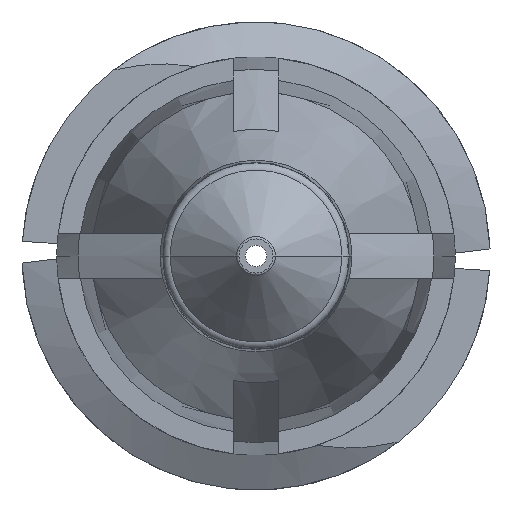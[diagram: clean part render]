
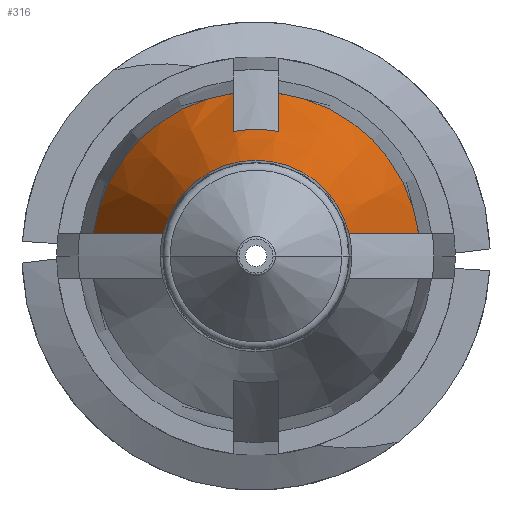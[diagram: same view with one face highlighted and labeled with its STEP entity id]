
A CAD part, front view. The second image highlights one B-rep face of the part: STEP entity #316.
In plain terms, the highlighted conical face has half-angle 20 degrees and reference radius 2.745 mm.
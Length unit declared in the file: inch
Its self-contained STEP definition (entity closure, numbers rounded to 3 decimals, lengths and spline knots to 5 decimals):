
#171 = VERTEX_POINT ( 'NONE', #3333 ) ;
#316 = ADVANCED_FACE ( 'NONE', ( #1262 ), #1378, .T. ) ;
#445 = CARTESIAN_POINT ( 'NONE',  ( 0.015, -0.406, 0.10703 ) ) ;
#454 = CARTESIAN_POINT ( 'NONE',  ( 0.06119, -0.52985, 0.015 ) ) ;
#490 = EDGE_CURVE ( 'NONE', #3282, #3223, #1990, .T. ) ;
#529 = CARTESIAN_POINT ( 'NONE',  ( 0.07664, -0.48863, 0.015 ) ) ;
#596 = ORIENTED_EDGE ( 'NONE', *, *, #1740, .F. ) ;
#630 = ORIENTED_EDGE ( 'NONE', *, *, #490, .F. ) ;
#632 = CIRCLE ( 'NONE', #3384, 0.10808 ) ;
#699 = CARTESIAN_POINT ( 'NONE',  ( 0., -0.406, 0. ) ) ;
#720 = CARTESIAN_POINT ( 'NONE',  ( -0.10703, -0.406, 0.015 ) ) ;
#757 = B_SPLINE_CURVE_WITH_KNOTS ( 'NONE', 3,
 ( #901, #2244, #919, #445 ),
 .UNSPECIFIED., .F., .F.,
 ( 4, 4 ),
 ( 0.00247, 0.00431 ),
 .UNSPECIFIED. ) ;
#770 = DIRECTION ( 'NONE',  ( 0., 1., 0. ) ) ;
#771 = VERTEX_POINT ( 'NONE', #1012 ) ;
#791 = VERTEX_POINT ( 'NONE', #2533 ) ;
#812 = ORIENTED_EDGE ( 'NONE', *, *, #1720, .F. ) ;
#889 = VERTEX_POINT ( 'NONE', #2433 ) ;
#901 = CARTESIAN_POINT ( 'NONE',  ( 0.015, -0.47395, 0.08198 ) ) ;
#919 = CARTESIAN_POINT ( 'NONE',  ( 0.015, -0.42866, 0.0987 ) ) ;
#943 = AXIS2_PLACEMENT_3D ( 'NONE', #1130, #2437, #3222 ) ;
#958 = B_SPLINE_CURVE_WITH_KNOTS ( 'NONE', 3,
 ( #454, #529, #1503, #2614 ),
 .UNSPECIFIED., .F., .F.,
 ( 4, 4 ),
 ( 0.00282, 0.00617 ),
 .UNSPECIFIED. ) ;
#989 = AXIS2_PLACEMENT_3D ( 'NONE', #3353, #1974, #2235 ) ;
#1012 = CARTESIAN_POINT ( 'NONE',  ( 0.10703, -0.406, 0.015 ) ) ;
#1067 = DIRECTION ( 'NONE',  ( -1., 0., 0. ) ) ;
#1130 = CARTESIAN_POINT ( 'NONE',  ( 0., -0.406, 0. ) ) ;
#1262 = FACE_OUTER_BOUND ( 'NONE', #1610, .T. ) ;
#1274 = CARTESIAN_POINT ( 'NONE',  ( -0.09185, -0.44732, 0.015 ) ) ;
#1329 = CARTESIAN_POINT ( 'NONE',  ( 0., -0.52985, 0. ) ) ;
#1378 = CONICAL_SURFACE ( 'NONE', #1830, 0.10808, 0.349 ) ;
#1466 = CIRCLE ( 'NONE', #989, 0.08335 ) ;
#1503 = CARTESIAN_POINT ( 'NONE',  ( 0.09185, -0.44732, 0.015 ) ) ;
#1571 = CARTESIAN_POINT ( 'NONE',  ( -0.10703, -0.406, 0.015 ) ) ;
#1606 = EDGE_CURVE ( 'NONE', #889, #771, #632, .T. ) ;
#1610 = EDGE_LOOP ( 'NONE', ( #812, #2316, #1770, #1651, #1708, #1627, #596, #630 ) ) ;
#1625 = AXIS2_PLACEMENT_3D ( 'NONE', #1329, #770, #2818 ) ;
#1627 = ORIENTED_EDGE ( 'NONE', *, *, #3080, .F. ) ;
#1651 = ORIENTED_EDGE ( 'NONE', *, *, #1606, .F. ) ;
#1708 = ORIENTED_EDGE ( 'NONE', *, *, #2925, .F. ) ;
#1720 = EDGE_CURVE ( 'NONE', #2037, #3282, #3133, .T. ) ;
#1740 = EDGE_CURVE ( 'NONE', #3223, #3058, #2965, .T. ) ;
#1748 = CARTESIAN_POINT ( 'NONE',  ( -0.015, -0.47395, 0.08198 ) ) ;
#1770 = ORIENTED_EDGE ( 'NONE', *, *, #3216, .T. ) ;
#1827 = CARTESIAN_POINT ( 'NONE',  ( -0.06119, -0.52985, 0.015 ) ) ;
#1830 = AXIS2_PLACEMENT_3D ( 'NONE', #2062, #2908, #1067 ) ;
#1974 = DIRECTION ( 'NONE',  ( 0., 1., 0. ) ) ;
#1990 = CIRCLE ( 'NONE', #943, 0.10808 ) ;
#2005 = DIRECTION ( 'NONE',  ( -1., 0., 0. ) ) ;
#2037 = VERTEX_POINT ( 'NONE', #2344 ) ;
#2062 = CARTESIAN_POINT ( 'NONE',  ( 0., -0.406, 0. ) ) ;
#2106 = CARTESIAN_POINT ( 'NONE',  ( -0.015, -0.406, 0.10703 ) ) ;
#2204 = EDGE_CURVE ( 'NONE', #2037, #791, #3275, .T. ) ;
#2235 = DIRECTION ( 'NONE',  ( 1., 0., 0. ) ) ;
#2244 = CARTESIAN_POINT ( 'NONE',  ( 0.015, -0.45131, 0.09036 ) ) ;
#2316 = ORIENTED_EDGE ( 'NONE', *, *, #2204, .T. ) ;
#2334 = CARTESIAN_POINT ( 'NONE',  ( -0.015, -0.47395, 0.08198 ) ) ;
#2344 = CARTESIAN_POINT ( 'NONE',  ( -0.06119, -0.52985, 0.015 ) ) ;
#2353 = CARTESIAN_POINT ( 'NONE',  ( -0.015, -0.406, 0.10703 ) ) ;
#2377 = CARTESIAN_POINT ( 'NONE',  ( -0.07664, -0.48863, 0.015 ) ) ;
#2433 = CARTESIAN_POINT ( 'NONE',  ( 0.015, -0.406, 0.10703 ) ) ;
#2437 = DIRECTION ( 'NONE',  ( 0., 1., 0. ) ) ;
#2533 = CARTESIAN_POINT ( 'NONE',  ( 0.06119, -0.52985, 0.015 ) ) ;
#2545 = DIRECTION ( 'NONE',  ( 0., 1., 0. ) ) ;
#2579 = CARTESIAN_POINT ( 'NONE',  ( -0.015, -0.42866, 0.0987 ) ) ;
#2614 = CARTESIAN_POINT ( 'NONE',  ( 0.10703, -0.406, 0.015 ) ) ;
#2642 = CARTESIAN_POINT ( 'NONE',  ( -0.015, -0.45131, 0.09036 ) ) ;
#2818 = DIRECTION ( 'NONE',  ( -1., 0., 0. ) ) ;
#2908 = DIRECTION ( 'NONE',  ( 0., 1., 0. ) ) ;
#2925 = EDGE_CURVE ( 'NONE', #171, #889, #757, .T. ) ;
#2965 = B_SPLINE_CURVE_WITH_KNOTS ( 'NONE', 3,
 ( #2106, #2579, #2642, #2334 ),
 .UNSPECIFIED., .F., .F.,
 ( 4, 4 ),
 ( 0.00343, 0.00527 ),
 .UNSPECIFIED. ) ;
#3058 = VERTEX_POINT ( 'NONE', #1748 ) ;
#3080 = EDGE_CURVE ( 'NONE', #3058, #171, #1466, .T. ) ;
#3133 = B_SPLINE_CURVE_WITH_KNOTS ( 'NONE', 3,
 ( #1827, #2377, #1274, #1571 ),
 .UNSPECIFIED., .F., .F.,
 ( 4, 4 ),
 ( 0.00282, 0.00617 ),
 .UNSPECIFIED. ) ;
#3216 = EDGE_CURVE ( 'NONE', #791, #771, #958, .T. ) ;
#3222 = DIRECTION ( 'NONE',  ( -1., 0., 0. ) ) ;
#3223 = VERTEX_POINT ( 'NONE', #2353 ) ;
#3275 = CIRCLE ( 'NONE', #1625, 0.063 ) ;
#3282 = VERTEX_POINT ( 'NONE', #720 ) ;
#3333 = CARTESIAN_POINT ( 'NONE',  ( 0.015, -0.47395, 0.08198 ) ) ;
#3353 = CARTESIAN_POINT ( 'NONE',  ( 0., -0.47395, 0. ) ) ;
#3384 = AXIS2_PLACEMENT_3D ( 'NONE', #699, #2545, #2005 ) ;
